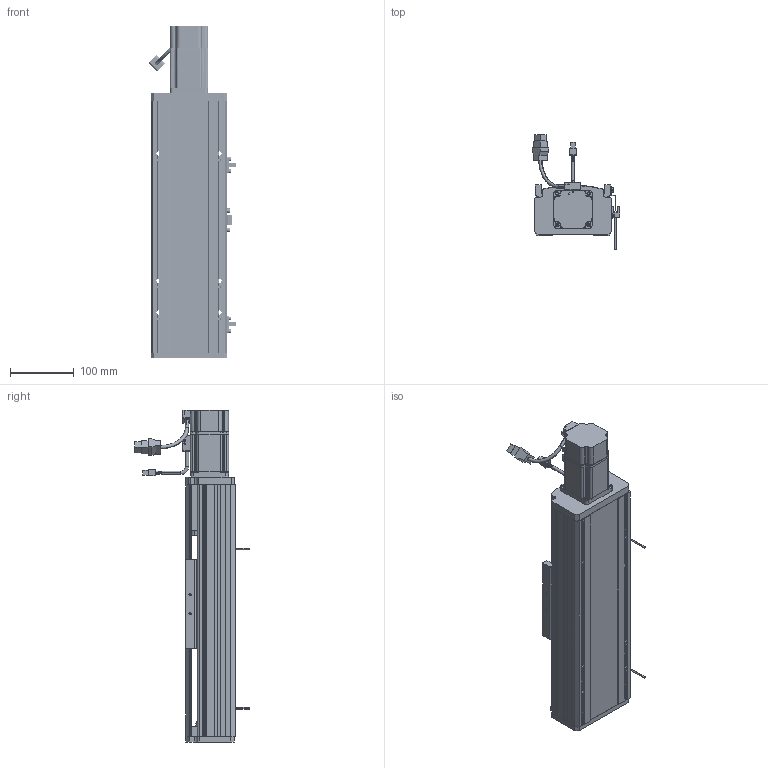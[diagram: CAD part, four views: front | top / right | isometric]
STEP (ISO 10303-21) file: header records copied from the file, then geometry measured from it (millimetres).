
FILE_DESCRIPTION (( 'STEP AP214' ), '1' );
FILE_NAME ('CTH120-150.STEP', '2019-11-20T02:32:11', ( '微软用户' ), ( '微软中国' ), 'SwSTEP 2.0', 'SolidWorks 2017', '' );
FILE_SCHEMA (( 'AUTOMOTIVE_DESIGN' ));
Length unit declared in the file: millimetre
Products named in the file (33): 136蹟簽蟀諉輸; 6000; 120模组-移动座_默认<按加工>; 120耀郪-盓傅釱; SFH1605-450; M4-L16囀鞠褒蹟佪; 120模组-底座_默认<按加工>; EGH15-CA; EGH15_RAIL; CTH120-150; 珨极宒粣創釱; 遣喳蝶15x12x8; M4-L10囀鞠褒蹟佪; M4-L22囀鞠褒蹟佪; 7001-DB; 7001; 噩砃EGH15-CA; 粣創揤啣; M3-L8囀鞠褒蹟佪; COL12B-粣遠; CT12耀郪-覜茼んえ; 坶踡蹟譫; EE-SX672-BR; 120耀郪-粣創釱; M4-L6半圆头内六角螺丝; 120耀郪-傷啣; M5-L20囀鞠褒蹟佪; 120模组-盖子_默认<按加工>; M5-L12囀鞠褒蹟佪; 120耀郪-侜督儂啣; 怢湛200W侜督萇儂ECMA-CX0602ES; SFH1605; 盓傅釱蚾饜极
Assembly tree (90 placements, depth 4):
  CTH120-150
    120模组-底座_默认<按加工>
    SFH1605-450
    120模组-移动座_默认<按加工>
    136蹟簽蟀諉輸
    SFH1605
    120耀郪-侜督儂啣
    120模组-盖子_默认<按加工>
    120耀郪-傷啣
    珨极宒粣創釱
      120耀郪-粣創釱
      坶踡蹟譫
      COL12B-粣遠  x2
      粣創揤啣
      7001-DB
        7001  x2
      M4-L22囀鞠褒蹟佪  x6
      M4-L10囀鞠褒蹟佪  x4
      遣喳蝶15x12x8
    EGH15_RAIL  x2
    EGH15-CA  x2
    M4-L16囀鞠褒蹟佪  x8
    M4-L10囀鞠褒蹟佪  x22
    盓傅釱蚾饜极
      120耀郪-盓傅釱
      6000
      遣喳蝶15x12x8  x2
      M4-L22囀鞠褒蹟佪  x2
    怢湛200W侜督萇儂ECMA-CX0602ES
    M5-L12囀鞠褒蹟佪  x3
    M5-L20囀鞠褒蹟佪  x4
    M4-L6半圆头内六角螺丝  x4
    EE-SX672-BR  x2
    CT12耀郪-覜茼んえ
    M3-L8囀鞠褒蹟佪  x4
    噩砃EGH15-CA  x2
Bounding box: 137.94 x 179.67 x 522 mm (x, y, z)
Volume: 2348003 mm3; surface area: 687848.8 mm2
Topology: 87 solids, 96 shells, 5034 faces, 13195 edges, 8425 vertices
Faces by surface type: plane 2769, cylinder 1412, cone 519, bspline 241, torus 81, sphere 12
Entity records: 103984 total; most frequent: CARTESIAN_POINT 30334, ORIENTED_EDGE 15392, DIRECTION 14053, EDGE_CURVE 7696, VERTEX_POINT 5047, AXIS2_PLACEMENT_3D 4743, LINE 4567, VECTOR 4567
